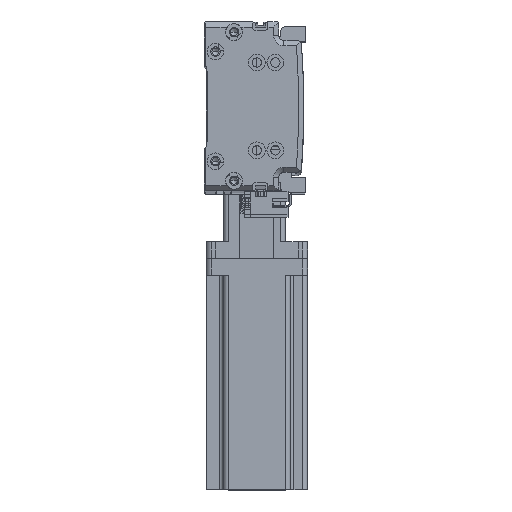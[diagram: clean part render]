
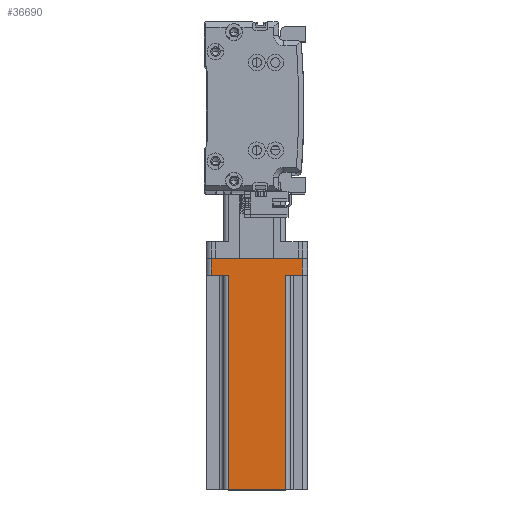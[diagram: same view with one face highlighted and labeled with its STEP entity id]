
A CAD part, top view. The second image highlights one B-rep face of the part: STEP entity #36690.
In plain terms, the highlighted planar face has unit normal (0, 0, 1) as drawn and (0, 1, 0) by its records, which use the part's own axes.
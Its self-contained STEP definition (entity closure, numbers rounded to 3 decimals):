
#364 = EDGE_CURVE ( 'NONE', #10159, #1348, #51813, .T. ) ;
#830 = CARTESIAN_POINT ( 'NONE',  ( 30., 30., 0. ) ) ;
#1066 = EDGE_CURVE ( 'NONE', #8556, #39797, #49879, .T. ) ;
#1097 = DIRECTION ( 'NONE',  ( 0., 0., -1. ) ) ;
#1348 = VERTEX_POINT ( 'NONE', #8090 ) ;
#2998 = ORIENTED_EDGE ( 'NONE', *, *, #43273, .T. ) ;
#3812 = DIRECTION ( 'NONE',  ( 0., 0., 1. ) ) ;
#4317 = ORIENTED_EDGE ( 'NONE', *, *, #1066, .F. ) ;
#4988 = DIRECTION ( 'NONE',  ( -1., 0., 0. ) ) ;
#6292 = ORIENTED_EDGE ( 'NONE', *, *, #34218, .T. ) ;
#6546 = AXIS2_PLACEMENT_3D ( 'NONE', #34813, #10042, #38930 ) ;
#6615 = DIRECTION ( 'NONE',  ( -1., 0., 0. ) ) ;
#7245 = DIRECTION ( 'NONE',  ( 0., 0., 1. ) ) ;
#7649 = EDGE_CURVE ( 'NONE', #8556, #18656, #25239, .T. ) ;
#7783 = CARTESIAN_POINT ( 'NONE',  ( 27., 30., 0. ) ) ;
#8090 = CARTESIAN_POINT ( 'NONE',  ( -27., 30., 10. ) ) ;
#8556 = VERTEX_POINT ( 'NONE', #49614 ) ;
#9297 = VECTOR ( 'NONE', #3812, 1000. ) ;
#9485 = ORIENTED_EDGE ( 'NONE', *, *, #30702, .F. ) ;
#10042 = DIRECTION ( 'NONE',  ( 0., -1., 0. ) ) ;
#10159 = VERTEX_POINT ( 'NONE', #30641 ) ;
#11726 = CARTESIAN_POINT ( 'NONE',  ( -17., 30., 10. ) ) ;
#13984 = VERTEX_POINT ( 'NONE', #44471 ) ;
#14065 = VECTOR ( 'NONE', #37719, 1000. ) ;
#17312 = VECTOR ( 'NONE', #6615, 1000. ) ;
#17372 = CARTESIAN_POINT ( 'NONE',  ( -27., 30., 137. ) ) ;
#17709 = EDGE_CURVE ( 'NONE', #13984, #39797, #45646, .T. ) ;
#18018 = PLANE ( 'NONE',  #6546 ) ;
#18656 = VERTEX_POINT ( 'NONE', #7783 ) ;
#19174 = VERTEX_POINT ( 'NONE', #11726 ) ;
#19292 = ORIENTED_EDGE ( 'NONE', *, *, #364, .T. ) ;
#20063 = LINE ( 'NONE', #42734, #51534 ) ;
#22408 = ORIENTED_EDGE ( 'NONE', *, *, #33324, .T. ) ;
#25239 = LINE ( 'NONE', #50446, #34901 ) ;
#25314 = DIRECTION ( 'NONE',  ( -1., 0., 0. ) ) ;
#27458 = CARTESIAN_POINT ( 'NONE',  ( 20., 30., 10. ) ) ;
#30641 = CARTESIAN_POINT ( 'NONE',  ( -27., 30., 0. ) ) ;
#30702 = EDGE_CURVE ( 'NONE', #13984, #36797, #50141, .T. ) ;
#31163 = LINE ( 'NONE', #32088, #51642 ) ;
#32088 = CARTESIAN_POINT ( 'NONE',  ( -17., 30., 137. ) ) ;
#33324 = EDGE_CURVE ( 'NONE', #19174, #36797, #31163, .T. ) ;
#33930 = CARTESIAN_POINT ( 'NONE',  ( 17., 30., 137. ) ) ;
#34218 = EDGE_CURVE ( 'NONE', #18656, #10159, #37202, .T. ) ;
#34813 = CARTESIAN_POINT ( 'NONE',  ( 30., 30., 137. ) ) ;
#34901 = VECTOR ( 'NONE', #1097, 1000. ) ;
#35915 = VECTOR ( 'NONE', #4988, 1000. ) ;
#36690 = ADVANCED_FACE ( 'NONE', ( #50349 ), #18018, .F. ) ;
#36797 = VERTEX_POINT ( 'NONE', #39468 ) ;
#37202 = LINE ( 'NONE', #830, #35915 ) ;
#37719 = DIRECTION ( 'NONE',  ( 0., 0., -1. ) ) ;
#38757 = CARTESIAN_POINT ( 'NONE',  ( 17., 30., 10. ) ) ;
#38930 = DIRECTION ( 'NONE',  ( 1., 0., 0. ) ) ;
#39468 = CARTESIAN_POINT ( 'NONE',  ( -17., 30., 137. ) ) ;
#39797 = VERTEX_POINT ( 'NONE', #38757 ) ;
#42734 = CARTESIAN_POINT ( 'NONE',  ( -20., 30., 10. ) ) ;
#43273 = EDGE_CURVE ( 'NONE', #1348, #19174, #20063, .T. ) ;
#43712 = ORIENTED_EDGE ( 'NONE', *, *, #7649, .T. ) ;
#44471 = CARTESIAN_POINT ( 'NONE',  ( 17., 30., 137. ) ) ;
#45644 = ORIENTED_EDGE ( 'NONE', *, *, #17709, .T. ) ;
#45646 = LINE ( 'NONE', #33930, #14065 ) ;
#48615 = VECTOR ( 'NONE', #25314, 1000. ) ;
#49614 = CARTESIAN_POINT ( 'NONE',  ( 27., 30., 10. ) ) ;
#49879 = LINE ( 'NONE', #27458, #48615 ) ;
#50141 = LINE ( 'NONE', #51807, #17312 ) ;
#50303 = EDGE_LOOP ( 'NONE', ( #2998, #22408, #9485, #45644, #4317, #43712, #6292, #19292 ) ) ;
#50349 = FACE_OUTER_BOUND ( 'NONE', #50303, .T. ) ;
#50446 = CARTESIAN_POINT ( 'NONE',  ( 27., 30., 137. ) ) ;
#50951 = DIRECTION ( 'NONE',  ( 1., 0., 0. ) ) ;
#51534 = VECTOR ( 'NONE', #50951, 1000. ) ;
#51642 = VECTOR ( 'NONE', #7245, 1000. ) ;
#51807 = CARTESIAN_POINT ( 'NONE',  ( 30., 30., 137. ) ) ;
#51813 = LINE ( 'NONE', #17372, #9297 ) ;
